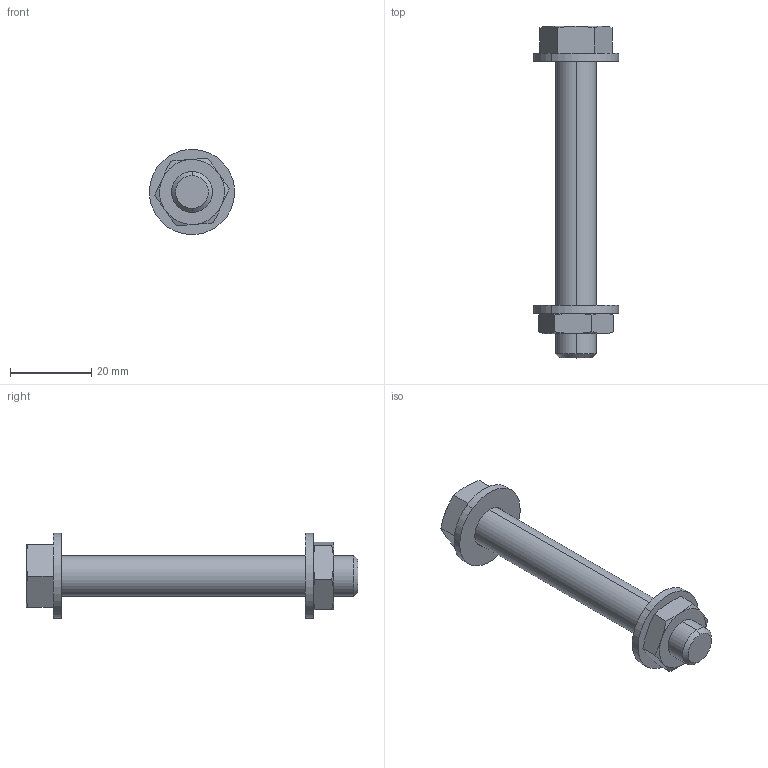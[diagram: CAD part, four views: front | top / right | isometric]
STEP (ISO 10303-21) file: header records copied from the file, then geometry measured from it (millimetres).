
FILE_DESCRIPTION (( 'STEP AP203' ), '1' );
FILE_NAME ('900.300.101.STEP', '2018-02-27T09:13:12', ( '' ), ( '' ), 'SwSTEP 2.0', 'SolidWorks 2016', '' );
FILE_SCHEMA (( 'CONFIG_CONTROL_DESIGN' ));
Length unit declared in the file: millimetre
Products named in the file (4): DADI ESAGONALI RIBASSATI UNI 5589_M10 UNI 5589; 900.300.101; VITI TE UNI 5739_M10x75 UNI 5739; RONDELLE UNI 6592_10.5x21 UNI 6592
Assembly tree (4 placements, depth 2):
  900.300.101
    VITI TE UNI 5739_M10x75 UNI 5739
    DADI ESAGONALI RIBASSATI UNI 5589_M10 UNI 5589
    RONDELLE UNI 6592_10.5x21 UNI 6592  x2
Bounding box: 20.93 x 81.67 x 20.93 mm (x, y, z)
Volume: 8989.1 mm3; surface area: 5236 mm2
Topology: 4 solids, 4 shells, 53 faces, 112 edges, 68 vertices
Faces by surface type: plane 21, cone 20, cylinder 12
Entity records: 1812 total; most frequent: CARTESIAN_POINT 394, DIRECTION 208, ORIENTED_EDGE 200, EDGE_CURVE 100, AXIS2_PLACEMENT_3D 90, VERTEX_POINT 60, EDGE_LOOP 52, ADVANCED_FACE 47
